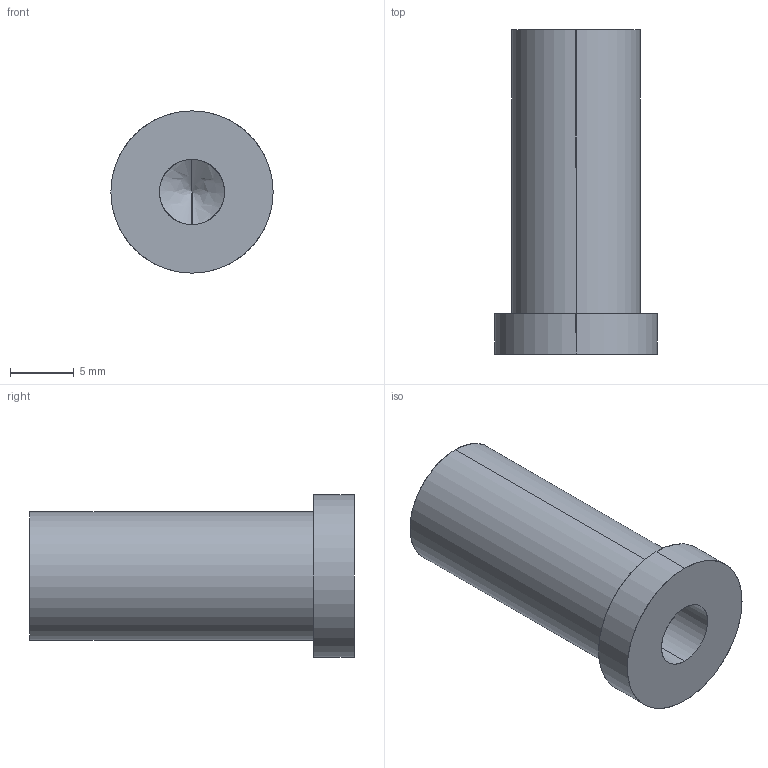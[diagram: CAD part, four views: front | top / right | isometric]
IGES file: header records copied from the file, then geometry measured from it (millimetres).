
Start section: SolidWorks IGES file using analytic representation for surfaces
Global section: file name: C:\Working\.5 Inch Coupling\DRP-002-0107-01.IGS; native system: SolidWorks 2010; preprocessor: SolidWorks 2010; author: mbush2; date: 100812.101650; units: inch
Bounding box: 12.7 x 25.4 x 12.7 mm (x, y, z)
Surface area: 1450.6 mm2 (no closed solid volume)
Topology: 0 solids, 0 shells, 11 faces, 192 edges, 190 vertices
Faces by surface type: revolution 8, bspline 3
